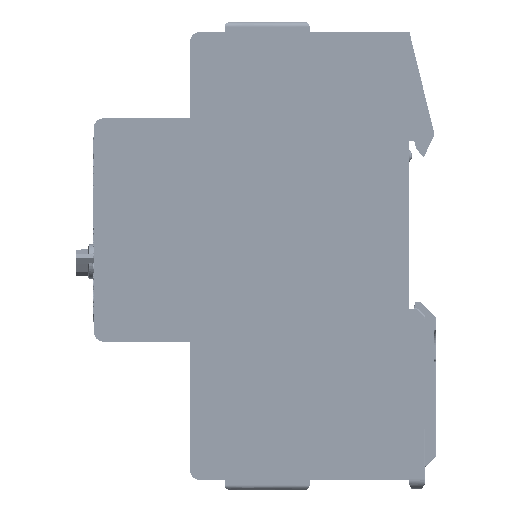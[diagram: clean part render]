
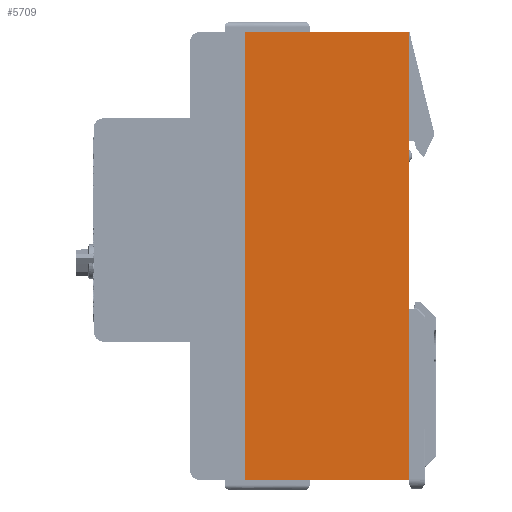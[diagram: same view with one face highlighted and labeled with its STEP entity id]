
A CAD part, left-side view. The second image highlights one B-rep face of the part: STEP entity #5709.
In plain terms, the highlighted planar face has unit normal (-1, 0, 0) as drawn and (0, 1, 0) by its records, which use the part's own axes.
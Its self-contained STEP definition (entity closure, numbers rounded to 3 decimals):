
#5709=ADVANCED_FACE('',(#135784),#135786,.T.);
#135784=FACE_BOUND('',#135785,.T.);
#135785=EDGE_LOOP('',(#242691,#242692,#242693,#242694));
#135786=PLANE('',#135787);
#135787=AXIS2_PLACEMENT_3D('',#135788,#135789,#135790);
#135788=CARTESIAN_POINT('',(45.15,52.4,0.));
#135789=DIRECTION('',(0.,1.,-0.));
#135790=DIRECTION('',(-1.,0.,0.));
#242691=ORIENTED_EDGE('',*,*,#333786,.T.);
#242692=ORIENTED_EDGE('',*,*,#333863,.F.);
#242693=ORIENTED_EDGE('',*,*,#333864,.F.);
#242694=ORIENTED_EDGE('',*,*,#333631,.T.);
#333631=EDGE_CURVE('',#376333,#376331,#376334,.T.);
#333786=EDGE_CURVE('',#376331,#376632,#376634,.T.);
#333863=EDGE_CURVE('',#376770,#376632,#376771,.T.);
#333864=EDGE_CURVE('',#376333,#376770,#376772,.T.);
#376331=VERTEX_POINT('',#447451);
#376333=VERTEX_POINT('',#447455);
#376334=LINE('',#447456,#447457);
#376632=VERTEX_POINT('',#448074);
#376634=LINE('',#448078,#448079);
#376770=VERTEX_POINT('',#448370);
#376771=LINE('',#448371,#448372);
#376772=LINE('',#448374,#448375);
#447451=CARTESIAN_POINT('',(-45.15,52.4,0.));
#447455=CARTESIAN_POINT('',(45.15,52.4,0.));
#447456=CARTESIAN_POINT('',(45.15,52.4,0.));
#447457=VECTOR('',#447458,1.);
#447458=DIRECTION('',(-1.,0.,0.));
#448074=CARTESIAN_POINT('',(-45.15,52.4,33.1));
#448078=CARTESIAN_POINT('',(-45.15,52.4,0.));
#448079=VECTOR('',#448080,1.);
#448080=DIRECTION('',(0.,0.,1.));
#448370=CARTESIAN_POINT('',(45.15,52.4,33.1));
#448371=CARTESIAN_POINT('',(45.15,52.4,33.1));
#448372=VECTOR('',#448373,1.);
#448373=DIRECTION('',(-1.,0.,0.));
#448374=CARTESIAN_POINT('',(45.15,52.4,0.));
#448375=VECTOR('',#448376,1.);
#448376=DIRECTION('',(0.,0.,1.));
